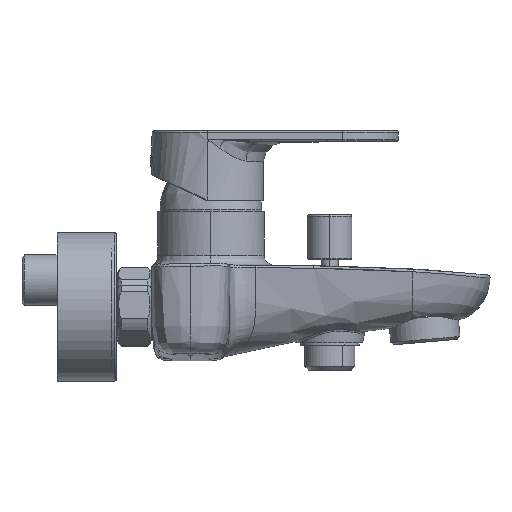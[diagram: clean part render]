
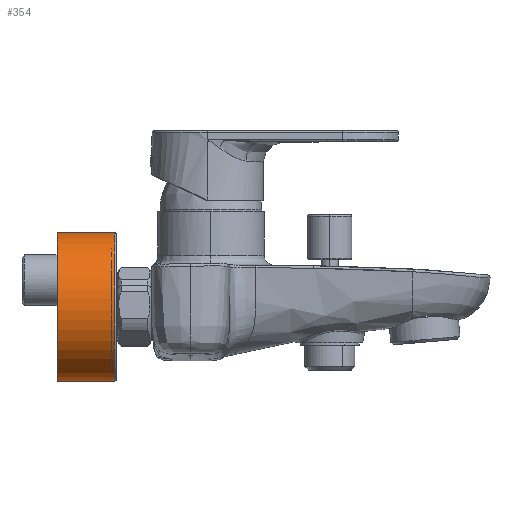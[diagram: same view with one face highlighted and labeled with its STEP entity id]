
A CAD part, left-side view. The second image highlights one B-rep face of the part: STEP entity #354.
In plain terms, the highlighted free-form (B-spline) face has degree [2, 1] with [5, 2] control points.
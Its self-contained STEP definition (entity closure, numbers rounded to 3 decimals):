
#354=ADVANCED_FACE('',(#636),#9029,.T.);
#636=FACE_OUTER_BOUND('',#941,.T.);
#941=EDGE_LOOP('',(#2231,#2232,#2233,#2234));
#2231=ORIENTED_EDGE('',*,*,#6732,.F.);
#2232=ORIENTED_EDGE('',*,*,#6735,.F.);
#2233=ORIENTED_EDGE('',*,*,#6734,.F.);
#2234=ORIENTED_EDGE('',*,*,#6768,.T.);
#2678=(
BOUNDED_CURVE()
B_SPLINE_CURVE(1,(#53202,#53203),.UNSPECIFIED.,.F.,.F.)
B_SPLINE_CURVE_WITH_KNOTS((2,2),(0.,23.),.UNSPECIFIED.)
CURVE()
GEOMETRIC_REPRESENTATION_ITEM()
RATIONAL_B_SPLINE_CURVE((1.,1.))
REPRESENTATION_ITEM('')
);
#2680=(
BOUNDED_CURVE()
B_SPLINE_CURVE(1,(#53213,#53214),.UNSPECIFIED.,.F.,.F.)
B_SPLINE_CURVE_WITH_KNOTS((2,2),(0.,23.),.UNSPECIFIED.)
CURVE()
GEOMETRIC_REPRESENTATION_ITEM()
RATIONAL_B_SPLINE_CURVE((1.,1.))
REPRESENTATION_ITEM('')
);
#2682=(
BOUNDED_CURVE()
B_SPLINE_CURVE(2,(#53222,#53223,#53224,#53225,#53226),.UNSPECIFIED.,.F.,
 .F.)
B_SPLINE_CURVE_WITH_KNOTS((3,2,3),(-94.248,-47.124,
0.),.UNSPECIFIED.)
CURVE()
GEOMETRIC_REPRESENTATION_ITEM()
RATIONAL_B_SPLINE_CURVE((1.,0.707,1.,0.707,1.))
REPRESENTATION_ITEM('')
);
#2683=(
BOUNDED_CURVE()
B_SPLINE_CURVE(2,(#53227,#53228,#53229,#53230,#53231),.UNSPECIFIED.,.F.,
 .F.)
B_SPLINE_CURVE_WITH_KNOTS((3,2,3),(-94.248,-47.124,
0.),.UNSPECIFIED.)
CURVE()
GEOMETRIC_REPRESENTATION_ITEM()
RATIONAL_B_SPLINE_CURVE((1.,0.707,1.,0.707,1.))
REPRESENTATION_ITEM('')
);
#2730=(
BOUNDED_CURVE()
B_SPLINE_CURVE(2,(#53496,#53497,#53498,#53499,#53500),.UNSPECIFIED.,.F.,
 .F.)
B_SPLINE_CURVE_WITH_KNOTS((3,2,3),(-136.659,-91.106,-45.553),
 .UNSPECIFIED.)
CURVE()
GEOMETRIC_REPRESENTATION_ITEM()
RATIONAL_B_SPLINE_CURVE((1.,0.707,1.,0.707,1.))
REPRESENTATION_ITEM('')
);
#3965=PCURVE('',#9020,#5276);
#3967=PCURVE('',#9020,#5278);
#3969=PCURVE('',#8868,#5280);
#4016=PCURVE('',#9029,#5327);
#4017=PCURVE('',#9029,#5328);
#4018=PCURVE('',#9029,#5329);
#4019=PCURVE('',#9029,#5330);
#4040=PCURVE('',#9035,#5351);
#5276=DEFINITIONAL_REPRESENTATION('',(#8253),#53563);
#5278=DEFINITIONAL_REPRESENTATION('',(#8255),#53563);
#5280=DEFINITIONAL_REPRESENTATION('',(#2683),#53563);
#5327=DEFINITIONAL_REPRESENTATION('',(#8288),#53563);
#5328=DEFINITIONAL_REPRESENTATION('',(#8289),#53563);
#5329=DEFINITIONAL_REPRESENTATION('',(#8290),#53563);
#5330=DEFINITIONAL_REPRESENTATION('',(#8291),#53563);
#5351=DEFINITIONAL_REPRESENTATION('',(#8312),#53563);
#6024=SURFACE_CURVE('',#2678,(#3965,#4016),.PCURVE_S1.);
#6026=SURFACE_CURVE('',#2680,(#3967,#4018),.PCURVE_S1.);
#6027=SURFACE_CURVE('',#2682,(#3969,#4017),.PCURVE_S1.);
#6060=SURFACE_CURVE('',#2730,(#4019,#4040),.PCURVE_S1.);
#6732=EDGE_CURVE('',#8731,#8732,#6024,.T.);
#6734=EDGE_CURVE('',#8733,#8730,#6026,.T.);
#6735=EDGE_CURVE('',#8730,#8731,#6027,.T.);
#6768=EDGE_CURVE('',#8733,#8732,#6060,.T.);
#8253=B_SPLINE_CURVE_WITH_KNOTS('',1,(#53204,#53205),.UNSPECIFIED.,.F.,
 .F.,(2,2),(0.,23.),.UNSPECIFIED.);
#8255=B_SPLINE_CURVE_WITH_KNOTS('',1,(#53215,#53216),.UNSPECIFIED.,.F.,
 .F.,(2,2),(0.,23.),.UNSPECIFIED.);
#8288=B_SPLINE_CURVE_WITH_KNOTS('',1,(#53490,#53491),.UNSPECIFIED.,.F.,
 .F.,(2,2),(0.,23.),.UNSPECIFIED.);
#8289=B_SPLINE_CURVE_WITH_KNOTS('',1,(#53492,#53493),.UNSPECIFIED.,.F.,
 .F.,(2,2),(-94.248,0.),.UNSPECIFIED.);
#8290=B_SPLINE_CURVE_WITH_KNOTS('',1,(#53494,#53495),.UNSPECIFIED.,.F.,
 .F.,(2,2),(0.,23.),.UNSPECIFIED.);
#8291=B_SPLINE_CURVE_WITH_KNOTS('',1,(#53501,#53502),.UNSPECIFIED.,.F.,
 .F.,(2,2),(-136.659,-45.553),.UNSPECIFIED.);
#8312=B_SPLINE_CURVE_WITH_KNOTS('',1,(#53553,#53554),.UNSPECIFIED.,.F.,
 .F.,(2,2),(-136.659,-45.553),.UNSPECIFIED.);
#8730=VERTEX_POINT('',#53171);
#8731=VERTEX_POINT('',#53172);
#8732=VERTEX_POINT('',#53173);
#8733=VERTEX_POINT('',#53174);
#8868=B_SPLINE_SURFACE_WITH_KNOTS('',1,1,((#52975,#52976),(#52977,#52978)),
 .UNSPECIFIED.,.F.,.F.,.F.,(2,2),(2,2),(-30.01,30.01),
(-30.01,30.01),.UNSPECIFIED.);
#9020=(
BOUNDED_SURFACE()
B_SPLINE_SURFACE(2,1,((#52965,#52966),(#52967,#52968),(#52969,#52970),(#52971,
#52972),(#52973,#52974)),.UNSPECIFIED.,.F.,.F.,.F.)
B_SPLINE_SURFACE_WITH_KNOTS((3,2,3),(2,2),(47.124,94.248,
141.372),(2.301,25.301),.UNSPECIFIED.)
GEOMETRIC_REPRESENTATION_ITEM()
RATIONAL_B_SPLINE_SURFACE(((1.,1.),(0.707,0.707),
(1.,1.),(0.707,0.707),(1.,1.)))
REPRESENTATION_ITEM('')
SURFACE()
);
#9029=(
BOUNDED_SURFACE()
B_SPLINE_SURFACE(2,1,((#53086,#53087),(#53088,#53089),(#53090,#53091),(#53092,
#53093),(#53094,#53095)),.UNSPECIFIED.,.F.,.F.,.F.)
B_SPLINE_SURFACE_WITH_KNOTS((3,2,3),(2,2),(47.124,94.248,
141.372),(2.301,25.301),.UNSPECIFIED.)
GEOMETRIC_REPRESENTATION_ITEM()
RATIONAL_B_SPLINE_SURFACE(((1.,1.),(0.707,0.707),
(1.,1.),(0.707,0.707),(1.,1.)))
REPRESENTATION_ITEM('')
SURFACE()
);
#9035=(
BOUNDED_SURFACE()
B_SPLINE_SURFACE(2,2,((#53156,#53157,#53158),(#53159,#53160,#53161),(#53162,
#53163,#53164),(#53165,#53166,#53167),(#53168,#53169,#53170)),
 .UNSPECIFIED.,.F.,.F.,.F.)
B_SPLINE_SURFACE_WITH_KNOTS((3,2,3),(3,3),(45.553,91.106,
136.659),(0.,1.571),.UNSPECIFIED.)
GEOMETRIC_REPRESENTATION_ITEM()
RATIONAL_B_SPLINE_SURFACE(((1.,0.707,1.),(0.707,
0.5,0.707),(1.,0.707,1.),(0.707,0.5,
0.707),(1.,0.707,1.)))
REPRESENTATION_ITEM('')
SURFACE()
);
#52965=CARTESIAN_POINT('',(-77.659,78.249,-49.167));
#52966=CARTESIAN_POINT('',(-77.659,55.249,-49.167));
#52967=CARTESIAN_POINT('',(-47.659,78.249,-49.167));
#52968=CARTESIAN_POINT('',(-47.659,55.249,-49.167));
#52969=CARTESIAN_POINT('',(-47.659,78.249,-19.167));
#52970=CARTESIAN_POINT('',(-47.659,55.249,-19.167));
#52971=CARTESIAN_POINT('',(-47.659,78.249,10.833));
#52972=CARTESIAN_POINT('',(-47.659,55.249,10.833));
#52973=CARTESIAN_POINT('',(-77.659,78.249,10.833));
#52974=CARTESIAN_POINT('',(-77.659,55.249,10.833));
#52975=CARTESIAN_POINT('',(-107.669,78.249,10.843));
#52976=CARTESIAN_POINT('',(-107.669,78.249,-49.177));
#52977=CARTESIAN_POINT('',(-47.649,78.249,10.843));
#52978=CARTESIAN_POINT('',(-47.649,78.249,-49.177));
#53086=CARTESIAN_POINT('',(-77.659,78.249,10.833));
#53087=CARTESIAN_POINT('',(-77.659,55.249,10.833));
#53088=CARTESIAN_POINT('',(-107.659,78.249,10.833));
#53089=CARTESIAN_POINT('',(-107.659,55.249,10.833));
#53090=CARTESIAN_POINT('',(-107.659,78.249,-19.167));
#53091=CARTESIAN_POINT('',(-107.659,55.249,-19.167));
#53092=CARTESIAN_POINT('',(-107.659,78.249,-49.167));
#53093=CARTESIAN_POINT('',(-107.659,55.249,-49.167));
#53094=CARTESIAN_POINT('',(-77.659,78.249,-49.167));
#53095=CARTESIAN_POINT('',(-77.659,55.249,-49.167));
#53156=CARTESIAN_POINT('',(-77.659,55.249,10.833));
#53157=CARTESIAN_POINT('',(-77.659,54.249,10.833));
#53158=CARTESIAN_POINT('',(-77.659,54.249,9.833));
#53159=CARTESIAN_POINT('',(-107.659,55.249,10.833));
#53160=CARTESIAN_POINT('',(-107.659,54.249,10.833));
#53161=CARTESIAN_POINT('',(-106.659,54.249,9.833));
#53162=CARTESIAN_POINT('',(-107.659,55.249,-19.167));
#53163=CARTESIAN_POINT('',(-107.659,54.249,-19.167));
#53164=CARTESIAN_POINT('',(-106.659,54.249,-19.167));
#53165=CARTESIAN_POINT('',(-107.659,55.249,-49.167));
#53166=CARTESIAN_POINT('',(-107.659,54.249,-49.167));
#53167=CARTESIAN_POINT('',(-106.659,54.249,-48.167));
#53168=CARTESIAN_POINT('',(-77.659,55.249,-49.167));
#53169=CARTESIAN_POINT('',(-77.659,54.249,-49.167));
#53170=CARTESIAN_POINT('',(-77.659,54.249,-48.167));
#53171=CARTESIAN_POINT('',(-77.659,78.249,-49.167));
#53172=CARTESIAN_POINT('',(-77.659,78.249,10.833));
#53173=CARTESIAN_POINT('',(-77.659,55.249,10.833));
#53174=CARTESIAN_POINT('',(-77.659,55.249,-49.167));
#53202=CARTESIAN_POINT('',(-77.659,78.249,10.833));
#53203=CARTESIAN_POINT('',(-77.659,55.249,10.833));
#53204=CARTESIAN_POINT('',(141.372,2.301));
#53205=CARTESIAN_POINT('',(141.372,25.301));
#53213=CARTESIAN_POINT('',(-77.659,55.249,-49.167));
#53214=CARTESIAN_POINT('',(-77.659,78.249,-49.167));
#53215=CARTESIAN_POINT('',(47.124,25.301));
#53216=CARTESIAN_POINT('',(47.124,2.301));
#53222=CARTESIAN_POINT('',(-77.659,78.249,-49.167));
#53223=CARTESIAN_POINT('',(-107.659,78.249,-49.167));
#53224=CARTESIAN_POINT('',(-107.659,78.249,-19.167));
#53225=CARTESIAN_POINT('',(-107.659,78.249,10.833));
#53226=CARTESIAN_POINT('',(-77.659,78.249,10.833));
#53227=CARTESIAN_POINT('',(0.,30.));
#53228=CARTESIAN_POINT('',(-30.,30.));
#53229=CARTESIAN_POINT('',(-30.,0.));
#53230=CARTESIAN_POINT('',(-30.,-30.));
#53231=CARTESIAN_POINT('',(0.,-30.));
#53490=CARTESIAN_POINT('',(47.124,2.301));
#53491=CARTESIAN_POINT('',(47.124,25.301));
#53492=CARTESIAN_POINT('',(141.372,2.301));
#53493=CARTESIAN_POINT('',(47.124,2.301));
#53494=CARTESIAN_POINT('',(141.372,25.301));
#53495=CARTESIAN_POINT('',(141.372,2.301));
#53496=CARTESIAN_POINT('',(-77.659,55.249,-49.167));
#53497=CARTESIAN_POINT('',(-107.659,55.249,-49.167));
#53498=CARTESIAN_POINT('',(-107.659,55.249,-19.167));
#53499=CARTESIAN_POINT('',(-107.659,55.249,10.833));
#53500=CARTESIAN_POINT('',(-77.659,55.249,10.833));
#53501=CARTESIAN_POINT('',(141.372,25.301));
#53502=CARTESIAN_POINT('',(47.124,25.301));
#53553=CARTESIAN_POINT('',(136.659,0.));
#53554=CARTESIAN_POINT('',(45.553,0.));
#53563=(
GEOMETRIC_REPRESENTATION_CONTEXT(2)
PARAMETRIC_REPRESENTATION_CONTEXT()
REPRESENTATION_CONTEXT('pspace','')
);
